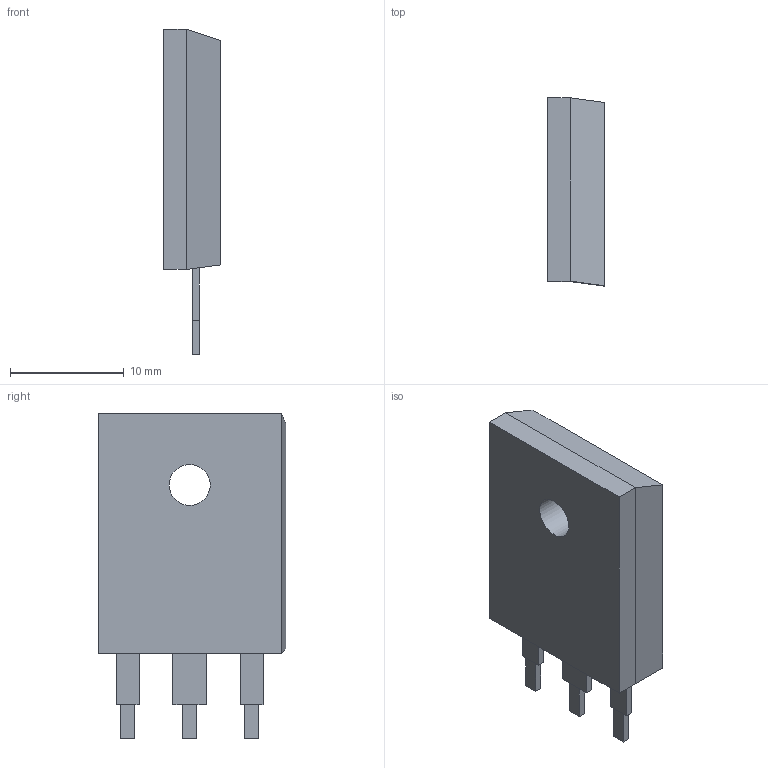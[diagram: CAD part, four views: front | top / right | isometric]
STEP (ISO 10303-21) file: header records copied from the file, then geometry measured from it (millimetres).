
FILE_DESCRIPTION(('FreeCAD Model'),'2;1');
FILE_NAME('Open CASCADE Shape Model','2023-12-07T03:36:45',('Author'),( ''),'Open CASCADE STEP processor 7.6','FreeCAD','Unknown');
FILE_SCHEMA(('AUTOMOTIVE_DESIGN { 1 0 10303 214 1 1 1 1 }'));
Length unit declared in the file: millimetre
Products named in the file (1): Group
Bounding box: 5 x 16.5 x 28.6 mm (x, y, z)
Volume: 1642.1 mm3; surface area: 1181.7 mm2
Topology: 1 solids, 1 shells, 44 faces, 101 edges, 62 vertices
Faces by surface type: plane 43, cylinder 1
Full cylindrical faces by diameter (mm): 3.6 x1
Entity records: 2830 total; most frequent: CARTESIAN_POINT 446, DIRECTION 369, LINE 275, VECTOR 275, ORIENTED_EDGE 202, PCURVE 202, DEFINITIONAL_REPRESENTATION 202, EDGE_CURVE 101
